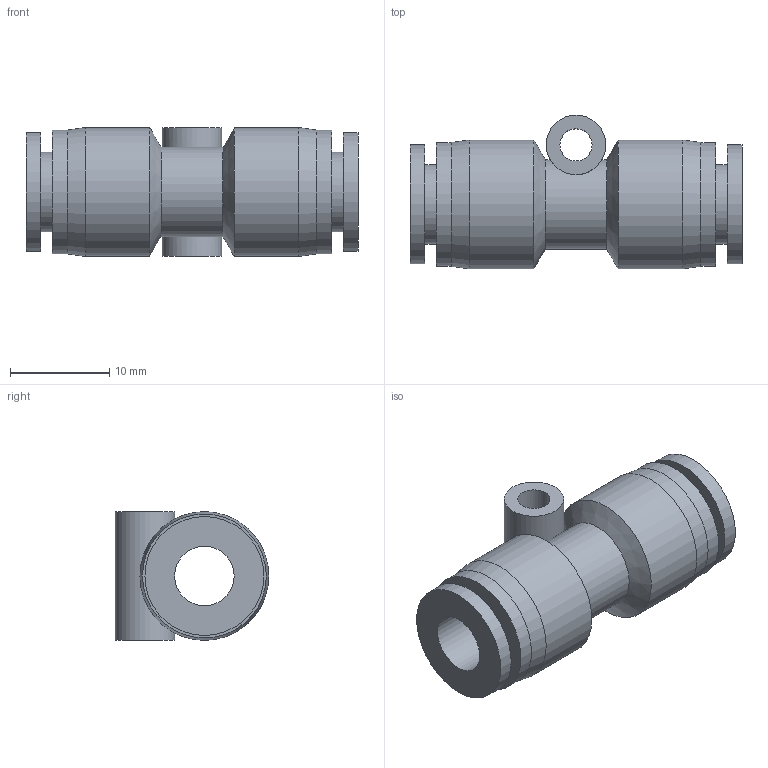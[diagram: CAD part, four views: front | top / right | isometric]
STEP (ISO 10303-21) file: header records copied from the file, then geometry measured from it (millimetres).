
FILE_DESCRIPTION((''),'2;1');
FILE_NAME('S:\UTecnico\ArchivioUT\Speciali Clienti\Speciali KONFIT\Plastica\RP\RP 53\RP530006.stp','2012-05-21T11:53:58',('UT5'),(''),'Autodesk Inventor 2012','Autodesk Inventor 2012','');
FILE_SCHEMA(('AUTOMOTIVE_DESIGN { 1 0 10303 214 1 1 1 1 }'));
Length unit declared in the file: millimetre
Products named in the file (1): RP530006
Bounding box: 33.5 x 15.5 x 13 mm (x, y, z)
Volume: 2926.1 mm3; surface area: 2727.8 mm2
Topology: 1 solids, 1 shells, 24 faces, 43 edges, 26 vertices
Faces by surface type: cylinder 12, plane 8, cone 4
Full cylindrical faces by diameter (mm): 3.25 x1, 6 x2, 8 x2, 9 x1, 12 x2, 12.5 x2, 13 x2
Entity records: 593 total; most frequent: CARTESIAN_POINT 116, DIRECTION 98, ORIENTED_EDGE 50, EDGE_LOOP 50, AXIS2_PLACEMENT_3D 49, FACE_BOUND 26, VERTEX_POINT 25, EDGE_CURVE 25
